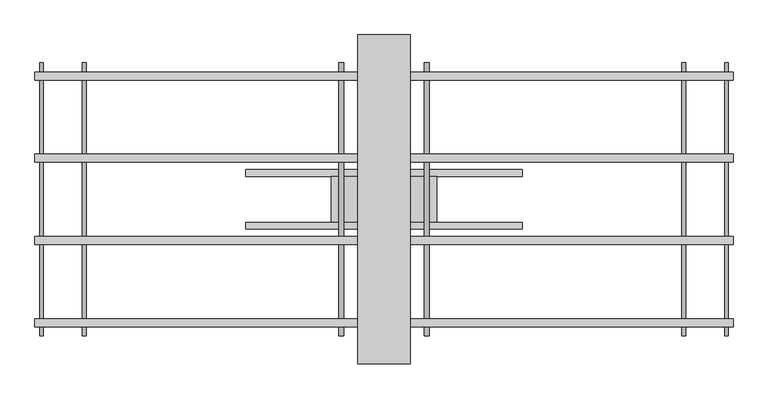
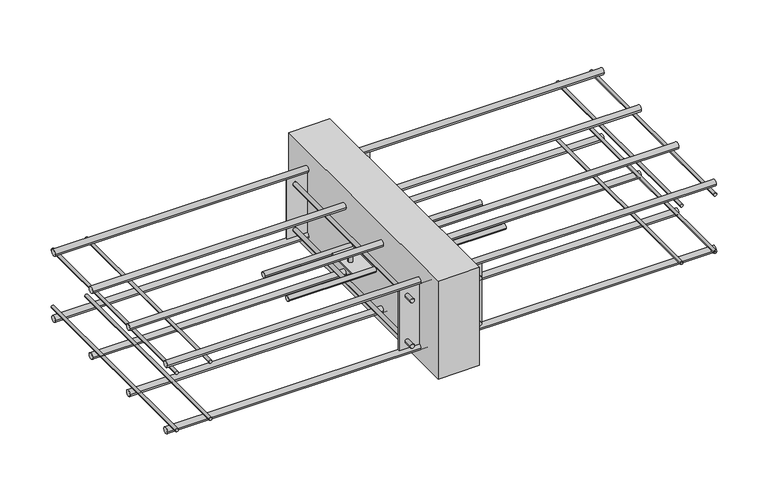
"""IFC4 building model written with IfcOpenShell, lengths in millimetres: fastener geometry, ACINOXplus_Typenreihe_M : MC+ S1."""

from ifc_helpers import new_model, si_unit, point, frame, frame_2d, origin, place, context, project, spatial, polyline, circle_curve, trimmed, segment, composite_curve, outline, extrude, source, transform, mapped, element, save
from ifc_brep_helpers import plane_surface, cylinder_surface, advanced_brep


def fastener_695fbbae(model_context):
    return source(origin(), model_context, "Body", "SolidModel", [
        extrude(outline(polyline([(40.0, 250.0), (40.0, -250.0), (-40.0, -250.0), (-40.0, 250.0), (40.0, 250.0)])), frame((0.0, 0.0, -200.0), z_axis=(0.0, 0.0, 1.0), x_axis=(1.0, 0.0, 0.0)), (0.0, 0.0, 1.0), 200.0),
        extrude(outline(composite_curve([segment(trimmed(circle_curve(frame_2d((-40.0, -103.5)), 5.0), [point((-45.0, -103.5))], [point((-35.0, -103.5))], False, "CARTESIAN"), True, "CONTINUOUS"), segment(trimmed(circle_curve(frame_2d((-40.0, -103.5)), 5.0), [point((-35.0, -103.5))], [point((-45.0, -103.5))], False, "CARTESIAN"), True, "CONTINUOUS")], self_intersect=False)), frame((-210.0, 0.0, 0.0), z_axis=(1.0, 0.0, 0.0), x_axis=(0.0, 1.0, 0.0)), (0.0, 0.0, 1.0), 420.0),
        extrude(outline(composite_curve([segment(trimmed(circle_curve(frame_2d((40.0, -103.5)), 5.0), [point((35.0, -103.5))], [point((45.0, -103.5))], False, "CARTESIAN"), True, "CONTINUOUS"), segment(trimmed(circle_curve(frame_2d((40.0, -103.5)), 5.0), [point((45.0, -103.5))], [point((35.0, -103.5))], False, "CARTESIAN"), True, "CONTINUOUS")], self_intersect=False)), frame((-210.0, 0.0, 0.0), z_axis=(1.0, 0.0, 0.0), x_axis=(0.0, 1.0, 0.0)), (0.0, 0.0, 1.0), 420.0),
        advanced_brep(
        [(-69.0, 0.0, -88.5), (-61.0, 0.0, -88.5), (61.0, 0.0, -88.5), (69.0, 0.0, -88.5), (-69.0, 0.0, -118.5), (-61.0, 0.0, -118.5), (61.0, 0.0, -118.5), (69.0, 0.0, -118.5), (-69.0, 0.0, -102.0), (-61.0, 0.0, -102.0), (-61.0, 0.0, -105.0), (-69.0, 0.0, -105.0), (61.0, 0.0, -102.0), (69.0, 0.0, -102.0), (69.0, 0.0, -105.0), (61.0, 0.0, -105.0), (80.0, 35.0, -102.0), (-80.0, 35.0, -102.0), (-80.0, -35.0, -102.0), (80.0, -35.0, -102.0), (80.0, 35.0, -105.0), (80.0, -35.0, -105.0), (-80.0, -35.0, -105.0), (-80.0, 35.0, -105.0)],
        [
            (0, 1, circle_curve(frame((-65.0, 0.0, -88.5), z_axis=(0.0, 0.0, 1.0), x_axis=(1.0, 0.0, 0.0)), 4.0)),
            (1, 0, circle_curve(frame((-65.0, 0.0, -88.5), z_axis=(0.0, 0.0, 1.0), x_axis=(1.0, 0.0, 0.0)), 4.0)),
            (2, 3, circle_curve(frame((65.0, 0.0, -88.5), z_axis=(0.0, 0.0, 1.0), x_axis=(1.0, 0.0, 0.0)), 4.0)),
            (3, 2, circle_curve(frame((65.0, 0.0, -88.5), z_axis=(0.0, 0.0, 1.0), x_axis=(1.0, 0.0, 0.0)), 4.0)),
            (4, 5, circle_curve(frame((-65.0, 0.0, -118.5), z_axis=(0.0, 0.0, -1.0), x_axis=(1.0, 0.0, 0.0)), 4.0)),
            (5, 4, circle_curve(frame((-65.0, 0.0, -118.5), z_axis=(0.0, 0.0, -1.0), x_axis=(1.0, 0.0, 0.0)), 4.0)),
            (6, 7, circle_curve(frame((65.0, 0.0, -118.5), z_axis=(0.0, 0.0, -1.0), x_axis=(1.0, 0.0, 0.0)), 4.0)),
            (7, 6, circle_curve(frame((65.0, 0.0, -118.5), z_axis=(0.0, 0.0, -1.0), x_axis=(1.0, 0.0, 0.0)), 4.0)),
            (0, 8),
            (8, 9, circle_curve(frame((-65.0, 0.0, -102.0), z_axis=(0.0, 0.0, 1.0), x_axis=(1.0, 0.0, 0.0)), 4.0)),
            (9, 1),
            (5, 10),
            (10, 11, circle_curve(frame((-65.0, 0.0, -105.0), z_axis=(0.0, 0.0, -1.0), x_axis=(1.0, 0.0, 0.0)), 4.0)),
            (11, 4),
            (9, 8, circle_curve(frame((-65.0, 0.0, -102.0), z_axis=(0.0, 0.0, 1.0), x_axis=(1.0, 0.0, 0.0)), 4.0)),
            (11, 10, circle_curve(frame((-65.0, 0.0, -105.0), z_axis=(0.0, 0.0, -1.0), x_axis=(1.0, 0.0, 0.0)), 4.0)),
            (2, 12),
            (12, 13, circle_curve(frame((65.0, 0.0, -102.0), z_axis=(0.0, 0.0, 1.0), x_axis=(1.0, 0.0, 0.0)), 4.0)),
            (13, 3),
            (7, 14),
            (14, 15, circle_curve(frame((65.0, 0.0, -105.0), z_axis=(0.0, 0.0, -1.0), x_axis=(1.0, 0.0, 0.0)), 4.0)),
            (15, 6),
            (13, 12, circle_curve(frame((65.0, 0.0, -102.0), z_axis=(0.0, 0.0, 1.0), x_axis=(1.0, 0.0, 0.0)), 4.0)),
            (15, 14, circle_curve(frame((65.0, 0.0, -105.0), z_axis=(0.0, 0.0, -1.0), x_axis=(1.0, 0.0, 0.0)), 4.0)),
            (16, 17),
            (17, 18),
            (18, 19),
            (19, 16),
            (20, 21),
            (21, 22),
            (22, 23),
            (23, 20),
            (16, 20),
            (23, 17),
            (22, 18),
            (21, 19),
        ],
        [
            plane_surface(frame((-61.0, 0.0, -88.5), z_axis=(0.0, 0.0, 1.0), x_axis=(0.0, 1.0, 0.0))),
            plane_surface(frame((-61.0, 0.0, -118.5), z_axis=(0.0, 0.0, -1.0), x_axis=(0.0, -1.0, 0.0))),
            cylinder_surface(frame((-65.0, 0.0, -118.5), z_axis=(0.0, 0.0, 1.0), x_axis=(1.0, 0.0, 0.0)), 4.0),
            cylinder_surface(frame((65.0, 0.0, -103.5), z_axis=(0.0, 0.0, 1.0), x_axis=(1.0, 0.0, 0.0)), 4.0),
            plane_surface(frame((-80.0, 35.0, -102.0), z_axis=(0.0, 0.0, 1.0), x_axis=(-1.0, 0.0, 0.0))),
            plane_surface(frame((-80.0, 35.0, -105.0), z_axis=(0.0, 0.0, -1.0), x_axis=(1.0, 0.0, 0.0))),
            plane_surface(frame((80.0, 35.0, -102.0), z_axis=(0.0, 1.0, 0.0), x_axis=(0.0, 0.0, -1.0))),
            plane_surface(frame((-80.0, 35.0, -102.0), z_axis=(-1.0, 0.0, 0.0), x_axis=(0.0, 0.0, -1.0))),
            plane_surface(frame((-80.0, -35.0, -102.0), z_axis=(0.0, -1.0, 0.0), x_axis=(0.0, 0.0, -1.0))),
            plane_surface(frame((80.0, -35.0, -102.0), z_axis=(1.0, 0.0, 0.0), x_axis=(0.0, 0.0, -1.0))),
        ],
        [
            (0, [[1, 2]]),
            (0, [[3, 4]]),
            (1, [[5, 6]]),
            (1, [[7, 8]]),
            (2, [[-1, 9, 10, 11]]),
            (2, [[-6, 12, 13, 14]]),
            (2, [[-2, -11, 15, -9]]),
            (2, [[-5, -14, 16, -12]]),
            (3, [[-3, 17, 18, 19]]),
            (3, [[-8, 20, 21, 22]]),
            (3, [[-4, -19, 23, -17]]),
            (3, [[-7, -22, 24, -20]]),
            (4, [[25, 26, 27, 28], [-10, -15], [-18, -23]]),
            (5, [[29, 30, 31, 32], [-13, -16], [-21, -24]]),
            (6, [[-25, 33, -32, 34]]),
            (7, [[-26, -34, -31, 35]]),
            (8, [[-27, -35, -30, 36]]),
            (9, [[-28, -36, -29, -33]]),
        ],
    ),
        extrude(outline(polyline([(80.0, -186.0), (80.0, -189.0), (-80.0, -189.0), (-80.0, -186.0), (80.0, -186.0)])), frame((0.0, 0.0, -165.0), z_axis=(0.0, 0.0, 1.0), x_axis=(1.0, 0.0, 0.0)), (0.0, 0.0, 1.0), 123.0),
        extrude(outline(polyline([(80.0, 189.0), (80.0, 186.0), (-80.0, 186.0), (-80.0, 189.0), (80.0, 189.0)])), frame((0.0, 0.0, -165.0), z_axis=(0.0, 0.0, 1.0), x_axis=(1.0, 0.0, 0.0)), (0.0, 0.0, 1.0), 123.0),
        extrude(outline(composite_curve([segment(trimmed(circle_curve(frame_2d((-150.0, -65.0)), 4.0), [point((-150.0, -69.0))], [point((-150.0, -61.0))], False, "CARTESIAN"), True, "CONTINUOUS"), segment(trimmed(circle_curve(frame_2d((-150.0, -65.0)), 4.0), [point((-150.0, -61.0))], [point((-150.0, -69.0))], False, "CARTESIAN"), True, "CONTINUOUS")], self_intersect=False)), frame((0.0, 189.0, 0.0), z_axis=(0.0, 1.0, 0.0), x_axis=(0.0, 0.0, 1.0)), (0.0, 0.0, 1.0), 18.5),
        extrude(outline(composite_curve([segment(trimmed(circle_curve(frame_2d((-150.0, -65.0)), 4.0), [point((-150.0, -61.0))], [point((-150.0, -69.0))], False, "CARTESIAN"), True, "CONTINUOUS"), segment(trimmed(circle_curve(frame_2d((-150.0, -65.0)), 4.0), [point((-150.0, -69.0))], [point((-150.0, -61.0))], False, "CARTESIAN"), True, "CONTINUOUS")], self_intersect=False)), frame((0.0, -207.5, 0.0), z_axis=(0.0, 1.0, 0.0), x_axis=(0.0, 0.0, 1.0)), (0.0, 0.0, 1.0), 18.5),
        extrude(outline(composite_curve([segment(trimmed(circle_curve(frame_2d((-150.0, -65.0)), 4.0), [point((-150.0, -69.0))], [point((-150.0, -61.0))], False, "CARTESIAN"), True, "CONTINUOUS"), segment(trimmed(circle_curve(frame_2d((-150.0, -65.0)), 4.0), [point((-150.0, -61.0))], [point((-150.0, -69.0))], False, "CARTESIAN"), True, "CONTINUOUS")], self_intersect=False)), frame((0.0, -186.0, 0.0), z_axis=(0.0, 1.0, 0.0), x_axis=(0.0, 0.0, 1.0)), (0.0, 0.0, 1.0), 372.0),
        extrude(outline(composite_curve([segment(trimmed(circle_curve(frame_2d((-150.0, 65.0)), 4.0), [point((-150.0, 61.0))], [point((-150.0, 69.0))], False, "CARTESIAN"), True, "CONTINUOUS"), segment(trimmed(circle_curve(frame_2d((-150.0, 65.0)), 4.0), [point((-150.0, 69.0))], [point((-150.0, 61.0))], False, "CARTESIAN"), True, "CONTINUOUS")], self_intersect=False)), frame((0.0, 189.0, 0.0), z_axis=(0.0, 1.0, 0.0), x_axis=(0.0, 0.0, 1.0)), (0.0, 0.0, 1.0), 18.5),
        extrude(outline(composite_curve([segment(trimmed(circle_curve(frame_2d((-150.0, 65.0)), 4.0), [point((-150.0, 69.0))], [point((-150.0, 61.0))], False, "CARTESIAN"), True, "CONTINUOUS"), segment(trimmed(circle_curve(frame_2d((-150.0, 65.0)), 4.0), [point((-150.0, 61.0))], [point((-150.0, 69.0))], False, "CARTESIAN"), True, "CONTINUOUS")], self_intersect=False)), frame((0.0, -207.5, 0.0), z_axis=(0.0, 1.0, 0.0), x_axis=(0.0, 0.0, 1.0)), (0.0, 0.0, 1.0), 18.5),
        extrude(outline(composite_curve([segment(trimmed(circle_curve(frame_2d((-150.0, 65.0)), 4.0), [point((-150.0, 61.0))], [point((-150.0, 69.0))], False, "CARTESIAN"), True, "CONTINUOUS"), segment(trimmed(circle_curve(frame_2d((-150.0, 65.0)), 4.0), [point((-150.0, 69.0))], [point((-150.0, 61.0))], False, "CARTESIAN"), True, "CONTINUOUS")], self_intersect=False)), frame((0.0, -186.0, 0.0), z_axis=(0.0, 1.0, 0.0), x_axis=(0.0, 0.0, 1.0)), (0.0, 0.0, 1.0), 372.0),
        extrude(outline(composite_curve([segment(trimmed(circle_curve(frame_2d((-57.0, -65.0)), 4.0), [point((-57.0, -69.0))], [point((-57.0, -61.0))], False, "CARTESIAN"), True, "CONTINUOUS"), segment(trimmed(circle_curve(frame_2d((-57.0, -65.0)), 4.0), [point((-57.0, -61.0))], [point((-57.0, -69.0))], False, "CARTESIAN"), True, "CONTINUOUS")], self_intersect=False)), frame((0.0, 189.0, 0.0), z_axis=(0.0, 1.0, 0.0), x_axis=(0.0, 0.0, 1.0)), (0.0, 0.0, 1.0), 18.5),
        extrude(outline(composite_curve([segment(trimmed(circle_curve(frame_2d((-57.0, -65.0)), 4.0), [point((-57.0, -61.0))], [point((-57.0, -69.0))], False, "CARTESIAN"), True, "CONTINUOUS"), segment(trimmed(circle_curve(frame_2d((-57.0, -65.0)), 4.0), [point((-57.0, -69.0))], [point((-57.0, -61.0))], False, "CARTESIAN"), True, "CONTINUOUS")], self_intersect=False)), frame((0.0, -207.5, 0.0), z_axis=(0.0, 1.0, 0.0), x_axis=(0.0, 0.0, 1.0)), (0.0, 0.0, 1.0), 18.5),
        extrude(outline(composite_curve([segment(trimmed(circle_curve(frame_2d((-57.0, -65.0)), 4.0), [point((-57.0, -69.0))], [point((-57.0, -61.0))], False, "CARTESIAN"), True, "CONTINUOUS"), segment(trimmed(circle_curve(frame_2d((-57.0, -65.0)), 4.0), [point((-57.0, -61.0))], [point((-57.0, -69.0))], False, "CARTESIAN"), True, "CONTINUOUS")], self_intersect=False)), frame((0.0, -186.0, 0.0), z_axis=(0.0, 1.0, 0.0), x_axis=(0.0, 0.0, 1.0)), (0.0, 0.0, 1.0), 372.0),
        extrude(outline(composite_curve([segment(trimmed(circle_curve(frame_2d((-57.0, 65.0)), 4.0), [point((-57.0, 61.0))], [point((-57.0, 69.0))], False, "CARTESIAN"), True, "CONTINUOUS"), segment(trimmed(circle_curve(frame_2d((-57.0, 65.0)), 4.0), [point((-57.0, 69.0))], [point((-57.0, 61.0))], False, "CARTESIAN"), True, "CONTINUOUS")], self_intersect=False)), frame((0.0, 189.0, 0.0), z_axis=(0.0, 1.0, 0.0), x_axis=(0.0, 0.0, 1.0)), (0.0, 0.0, 1.0), 18.5),
        extrude(outline(composite_curve([segment(trimmed(circle_curve(frame_2d((-57.0, 65.0)), 4.0), [point((-57.0, 69.0))], [point((-57.0, 61.0))], False, "CARTESIAN"), True, "CONTINUOUS"), segment(trimmed(circle_curve(frame_2d((-57.0, 65.0)), 4.0), [point((-57.0, 61.0))], [point((-57.0, 69.0))], False, "CARTESIAN"), True, "CONTINUOUS")], self_intersect=False)), frame((0.0, -207.5, 0.0), z_axis=(0.0, 1.0, 0.0), x_axis=(0.0, 0.0, 1.0)), (0.0, 0.0, 1.0), 18.5),
        extrude(outline(composite_curve([segment(trimmed(circle_curve(frame_2d((-57.0, 65.0)), 4.0), [point((-57.0, 61.0))], [point((-57.0, 69.0))], False, "CARTESIAN"), True, "CONTINUOUS"), segment(trimmed(circle_curve(frame_2d((-57.0, 65.0)), 4.0), [point((-57.0, 69.0))], [point((-57.0, 61.0))], False, "CARTESIAN"), True, "CONTINUOUS")], self_intersect=False)), frame((0.0, -186.0, 0.0), z_axis=(0.0, 1.0, 0.0), x_axis=(0.0, 0.0, 1.0)), (0.0, 0.0, 1.0), 372.0),
        extrude(outline(composite_curve([segment(trimmed(circle_curve(frame_2d((62.5, -171.0)), 6.0), [point((56.5, -171.0))], [point((68.5, -171.0))], False, "CARTESIAN"), True, "CONTINUOUS"), segment(trimmed(circle_curve(frame_2d((62.5, -171.0)), 6.0), [point((68.5, -171.0))], [point((56.5, -171.0))], False, "CARTESIAN"), True, "CONTINUOUS")], self_intersect=False)), frame((-530.0, 0.0, 0.0), z_axis=(1.0, 0.0, 0.0), x_axis=(0.0, 1.0, 0.0)), (0.0, 0.0, 1.0), 1060.0),
        extrude(outline(composite_curve([segment(trimmed(circle_curve(frame_2d((187.5, -171.0)), 6.0), [point((181.5, -171.0))], [point((193.5, -171.0))], False, "CARTESIAN"), True, "CONTINUOUS"), segment(trimmed(circle_curve(frame_2d((187.5, -171.0)), 6.0), [point((193.5, -171.0))], [point((181.5, -171.0))], False, "CARTESIAN"), True, "CONTINUOUS")], self_intersect=False)), frame((-530.0, 0.0, 0.0), z_axis=(1.0, 0.0, 0.0), x_axis=(0.0, 1.0, 0.0)), (0.0, 0.0, 1.0), 1060.0),
        extrude(outline(composite_curve([segment(trimmed(circle_curve(frame_2d((-62.5, -171.0)), 6.0), [point((-68.5, -171.0))], [point((-56.5, -171.0))], False, "CARTESIAN"), True, "CONTINUOUS"), segment(trimmed(circle_curve(frame_2d((-62.5, -171.0)), 6.0), [point((-56.5, -171.0))], [point((-68.5, -171.0))], False, "CARTESIAN"), True, "CONTINUOUS")], self_intersect=False)), frame((-530.0, 0.0, 0.0), z_axis=(1.0, 0.0, 0.0), x_axis=(0.0, 1.0, 0.0)), (0.0, 0.0, 1.0), 1060.0),
        extrude(outline(composite_curve([segment(trimmed(circle_curve(frame_2d((-187.5, -171.0)), 6.0), [point((-193.5, -171.0))], [point((-181.5, -171.0))], False, "CARTESIAN"), True, "CONTINUOUS"), segment(trimmed(circle_curve(frame_2d((-187.5, -171.0)), 6.0), [point((-181.5, -171.0))], [point((-193.5, -171.0))], False, "CARTESIAN"), True, "CONTINUOUS")], self_intersect=False)), frame((-530.0, 0.0, 0.0), z_axis=(1.0, 0.0, 0.0), x_axis=(0.0, 1.0, 0.0)), (0.0, 0.0, 1.0), 1060.0),
        extrude(outline(composite_curve([segment(trimmed(circle_curve(frame_2d((62.5, -36.0)), 6.0), [point((56.5, -36.0))], [point((68.5, -36.0))], False, "CARTESIAN"), True, "CONTINUOUS"), segment(trimmed(circle_curve(frame_2d((62.5, -36.0)), 6.0), [point((68.5, -36.0))], [point((56.5, -36.0))], False, "CARTESIAN"), True, "CONTINUOUS")], self_intersect=False)), frame((-530.0, 0.0, 0.0), z_axis=(1.0, 0.0, 0.0), x_axis=(0.0, 1.0, 0.0)), (0.0, 0.0, 1.0), 1060.0),
        extrude(outline(composite_curve([segment(trimmed(circle_curve(frame_2d((187.5, -36.0)), 6.0), [point((181.5, -36.0))], [point((193.5, -36.0))], False, "CARTESIAN"), True, "CONTINUOUS"), segment(trimmed(circle_curve(frame_2d((187.5, -36.0)), 6.0), [point((193.5, -36.0))], [point((181.5, -36.0))], False, "CARTESIAN"), True, "CONTINUOUS")], self_intersect=False)), frame((-530.0, 0.0, 0.0), z_axis=(1.0, 0.0, 0.0), x_axis=(0.0, 1.0, 0.0)), (0.0, 0.0, 1.0), 1060.0),
        extrude(outline(composite_curve([segment(trimmed(circle_curve(frame_2d((-62.5, -36.0)), 6.0), [point((-68.5, -36.0))], [point((-56.5, -36.0))], False, "CARTESIAN"), True, "CONTINUOUS"), segment(trimmed(circle_curve(frame_2d((-62.5, -36.0)), 6.0), [point((-56.5, -36.0))], [point((-68.5, -36.0))], False, "CARTESIAN"), True, "CONTINUOUS")], self_intersect=False)), frame((-530.0, 0.0, 0.0), z_axis=(1.0, 0.0, 0.0), x_axis=(0.0, 1.0, 0.0)), (0.0, 0.0, 1.0), 1060.0),
        extrude(outline(composite_curve([segment(trimmed(circle_curve(frame_2d((-187.5, -36.0)), 6.0), [point((-193.5, -36.0))], [point((-181.5, -36.0))], False, "CARTESIAN"), True, "CONTINUOUS"), segment(trimmed(circle_curve(frame_2d((-187.5, -36.0)), 6.0), [point((-181.5, -36.0))], [point((-193.5, -36.0))], False, "CARTESIAN"), True, "CONTINUOUS")], self_intersect=False)), frame((-530.0, 0.0, 0.0), z_axis=(1.0, 0.0, 0.0), x_axis=(0.0, 1.0, 0.0)), (0.0, 0.0, 1.0), 1060.0),
        extrude(outline(composite_curve([segment(trimmed(circle_curve(frame_2d((-162.0, -520.0)), 3.0), [point((-162.0, -517.0))], [point((-162.0, -523.0))], False, "CARTESIAN"), True, "CONTINUOUS"), segment(trimmed(circle_curve(frame_2d((-162.0, -520.0)), 3.0), [point((-162.0, -523.0))], [point((-162.0, -517.0))], False, "CARTESIAN"), True, "CONTINUOUS")], self_intersect=False)), frame((0.0, -207.5, 0.0), z_axis=(0.0, 1.0, 0.0), x_axis=(0.0, 0.0, 1.0)), (0.0, 0.0, 1.0), 415.0),
        extrude(outline(composite_curve([segment(trimmed(circle_curve(frame_2d((-162.0, -455.0)), 3.0), [point((-162.0, -452.0))], [point((-162.0, -458.0))], False, "CARTESIAN"), True, "CONTINUOUS"), segment(trimmed(circle_curve(frame_2d((-162.0, -455.0)), 3.0), [point((-162.0, -458.0))], [point((-162.0, -452.0))], False, "CARTESIAN"), True, "CONTINUOUS")], self_intersect=False)), frame((0.0, -207.5, 0.0), z_axis=(0.0, 1.0, 0.0), x_axis=(0.0, 0.0, 1.0)), (0.0, 0.0, 1.0), 415.0),
        extrude(outline(composite_curve([segment(trimmed(circle_curve(frame_2d((-162.0, 455.0)), 3.0), [point((-162.0, 458.0))], [point((-162.0, 452.0))], False, "CARTESIAN"), True, "CONTINUOUS"), segment(trimmed(circle_curve(frame_2d((-162.0, 455.0)), 3.0), [point((-162.0, 452.0))], [point((-162.0, 458.0))], False, "CARTESIAN"), True, "CONTINUOUS")], self_intersect=False)), frame((0.0, -207.5, 0.0), z_axis=(0.0, 1.0, 0.0), x_axis=(0.0, 0.0, 1.0)), (0.0, 0.0, 1.0), 415.0),
        extrude(outline(composite_curve([segment(trimmed(circle_curve(frame_2d((-162.0, 520.0)), 3.0), [point((-162.0, 523.0))], [point((-162.0, 517.0))], False, "CARTESIAN"), True, "CONTINUOUS"), segment(trimmed(circle_curve(frame_2d((-162.0, 520.0)), 3.0), [point((-162.0, 517.0))], [point((-162.0, 523.0))], False, "CARTESIAN"), True, "CONTINUOUS")], self_intersect=False)), frame((0.0, -207.5, 0.0), z_axis=(0.0, 1.0, 0.0), x_axis=(0.0, 0.0, 1.0)), (0.0, 0.0, 1.0), 415.0),
        extrude(outline(composite_curve([segment(trimmed(circle_curve(frame_2d((-45.0, 455.0)), 3.0), [point((-45.0, 458.0))], [point((-45.0, 452.0))], False, "CARTESIAN"), True, "CONTINUOUS"), segment(trimmed(circle_curve(frame_2d((-45.0, 455.0)), 3.0), [point((-45.0, 452.0))], [point((-45.0, 458.0))], False, "CARTESIAN"), True, "CONTINUOUS")], self_intersect=False)), frame((0.0, -207.5, 0.0), z_axis=(0.0, 1.0, 0.0), x_axis=(0.0, 0.0, 1.0)), (0.0, 0.0, 1.0), 415.0),
        extrude(outline(composite_curve([segment(trimmed(circle_curve(frame_2d((-45.0, 520.0)), 3.0), [point((-45.0, 523.0))], [point((-45.0, 517.0))], False, "CARTESIAN"), True, "CONTINUOUS"), segment(trimmed(circle_curve(frame_2d((-45.0, 520.0)), 3.0), [point((-45.0, 517.0))], [point((-45.0, 523.0))], False, "CARTESIAN"), True, "CONTINUOUS")], self_intersect=False)), frame((0.0, -207.5, 0.0), z_axis=(0.0, 1.0, 0.0), x_axis=(0.0, 0.0, 1.0)), (0.0, 0.0, 1.0), 415.0),
        extrude(outline(composite_curve([segment(trimmed(circle_curve(frame_2d((-45.0, -520.0)), 3.0), [point((-45.0, -517.0))], [point((-45.0, -523.0))], False, "CARTESIAN"), True, "CONTINUOUS"), segment(trimmed(circle_curve(frame_2d((-45.0, -520.0)), 3.0), [point((-45.0, -523.0))], [point((-45.0, -517.0))], False, "CARTESIAN"), True, "CONTINUOUS")], self_intersect=False)), frame((0.0, -207.5, 0.0), z_axis=(0.0, 1.0, 0.0), x_axis=(0.0, 0.0, 1.0)), (0.0, 0.0, 1.0), 415.0),
        extrude(outline(composite_curve([segment(trimmed(circle_curve(frame_2d((-45.0, -455.0)), 3.0), [point((-45.0, -452.0))], [point((-45.0, -458.0))], False, "CARTESIAN"), True, "CONTINUOUS"), segment(trimmed(circle_curve(frame_2d((-45.0, -455.0)), 3.0), [point((-45.0, -458.0))], [point((-45.0, -452.0))], False, "CARTESIAN"), True, "CONTINUOUS")], self_intersect=False)), frame((0.0, -207.5, 0.0), z_axis=(0.0, 1.0, 0.0), x_axis=(0.0, 0.0, 1.0)), (0.0, 0.0, 1.0), 415.0),
    ])


if __name__ == "__main__":
    model = new_model("IFC4")
    model_context = context("Model", 3, world=origin())
    ifc_project = project(units=[si_unit("LENGTHUNIT", "METRE", prefix="MILLI")], contexts=[model_context])
    site = spatial("IfcSite", under=ifc_project)
    building = spatial("IfcBuilding", under=site)
    placement = place(None, origin())
    fastener_shape = fastener_695fbbae(model_context)
    element("IfcFastener", 1, ObjectType="ACINOXplus_Typenreihe_M : MC+ S1", at=placement, inside=building, context=model_context, shape_type="MappedRepresentation", body=[
        mapped(fastener_shape, transform((0.0, 0.0, 0.0), x_axis=(1.0, 0.0, 0.0), y_axis=(0.0, 1.0, 0.0), z_axis=(0.0, 0.0, 1.0))),
    ])
    save(model, "model.ifc")
